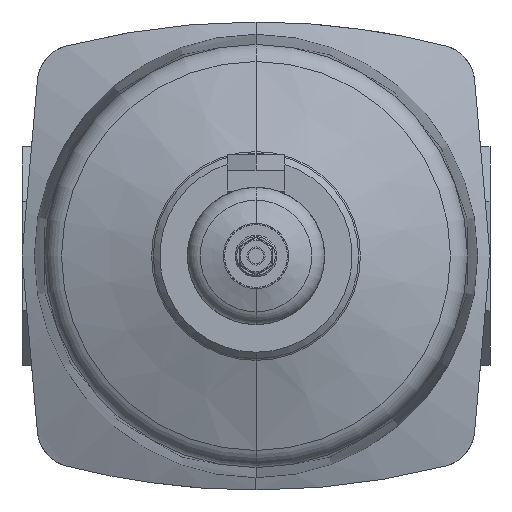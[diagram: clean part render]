
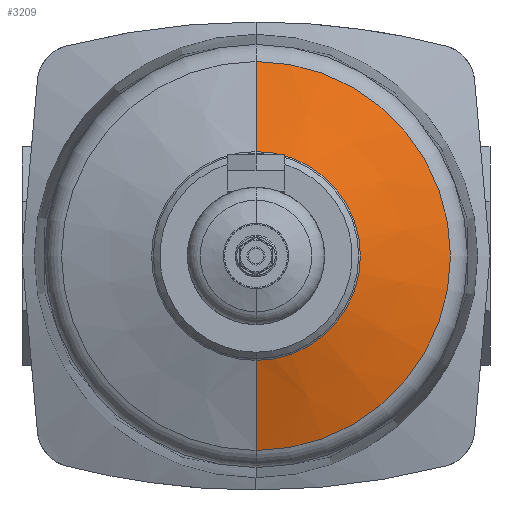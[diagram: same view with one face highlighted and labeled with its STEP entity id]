
A CAD part, front view. The second image highlights one B-rep face of the part: STEP entity #3209.
In plain terms, the highlighted conical face has half-angle 70 degrees and reference radius 74.794 mm.
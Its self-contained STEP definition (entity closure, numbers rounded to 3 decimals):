
#46 = VECTOR ( 'NONE', #6640, 1000. ) ;
#76 = CIRCLE ( 'NONE', #4223, 74.794 ) ;
#94 = ORIENTED_EDGE ( 'NONE', *, *, #11513, .F. ) ;
#219 = VERTEX_POINT ( 'NONE', #4972 ) ;
#1113 = CARTESIAN_POINT ( 'NONE',  ( 0., -295.75, 0. ) ) ;
#2157 = DIRECTION ( 'NONE',  ( 0., -1., 0. ) ) ;
#2506 = EDGE_CURVE ( 'NONE', #9877, #11251, #5587, .T. ) ;
#2887 = EDGE_CURVE ( 'NONE', #11251, #7029, #76, .T. ) ;
#3209 = ADVANCED_FACE ( 'NONE', ( #4150 ), #4089, .T. ) ;
#4089 = CONICAL_SURFACE ( 'NONE', #9597, 74.794, 1.222 ) ;
#4150 = FACE_OUTER_BOUND ( 'NONE', #4371, .T. ) ;
#4223 = AXIS2_PLACEMENT_3D ( 'NONE', #1113, #2157, #11413 ) ;
#4371 = EDGE_LOOP ( 'NONE', ( #94, #9207, #10886, #7721 ) ) ;
#4972 = CARTESIAN_POINT ( 'NONE',  ( 0., -308.356, 40.158 ) ) ;
#5134 = EDGE_CURVE ( 'NONE', #219, #7029, #8421, .T. ) ;
#5181 = CARTESIAN_POINT ( 'NONE',  ( 0., -308.356, 0. ) ) ;
#5587 = LINE ( 'NONE', #8355, #5977 ) ;
#5977 = VECTOR ( 'NONE', #6639, 1000. ) ;
#6578 = CIRCLE ( 'NONE', #10915, 40.158 ) ;
#6639 = DIRECTION ( 'NONE',  ( 0., 0.342, -0.94 ) ) ;
#6640 = DIRECTION ( 'NONE',  ( 0., 0.342, 0.94 ) ) ;
#6671 = CARTESIAN_POINT ( 'NONE',  ( 0., -295.75, 74.794 ) ) ;
#6870 = DIRECTION ( 'NONE',  ( 0., 1., 0. ) ) ;
#7029 = VERTEX_POINT ( 'NONE', #6671 ) ;
#7721 = ORIENTED_EDGE ( 'NONE', *, *, #5134, .F. ) ;
#7726 = DIRECTION ( 'NONE',  ( 0., -1., 0. ) ) ;
#7908 = DIRECTION ( 'NONE',  ( 0., 0., 1. ) ) ;
#8355 = CARTESIAN_POINT ( 'NONE',  ( 0., -295.75, -74.794 ) ) ;
#8421 = LINE ( 'NONE', #10400, #46 ) ;
#8709 = CARTESIAN_POINT ( 'NONE',  ( 0., -295.75, 0. ) ) ;
#8877 = DIRECTION ( 'NONE',  ( 0., 0., -1. ) ) ;
#9207 = ORIENTED_EDGE ( 'NONE', *, *, #2506, .T. ) ;
#9597 = AXIS2_PLACEMENT_3D ( 'NONE', #8709, #6870, #7908 ) ;
#9877 = VERTEX_POINT ( 'NONE', #10963 ) ;
#10400 = CARTESIAN_POINT ( 'NONE',  ( 0., -295.75, 74.794 ) ) ;
#10695 = CARTESIAN_POINT ( 'NONE',  ( 0., -295.75, -74.794 ) ) ;
#10886 = ORIENTED_EDGE ( 'NONE', *, *, #2887, .T. ) ;
#10915 = AXIS2_PLACEMENT_3D ( 'NONE', #5181, #7726, #8877 ) ;
#10963 = CARTESIAN_POINT ( 'NONE',  ( 0., -308.356, -40.158 ) ) ;
#11251 = VERTEX_POINT ( 'NONE', #10695 ) ;
#11413 = DIRECTION ( 'NONE',  ( 0., 0., -1. ) ) ;
#11513 = EDGE_CURVE ( 'NONE', #9877, #219, #6578, .T. ) ;
